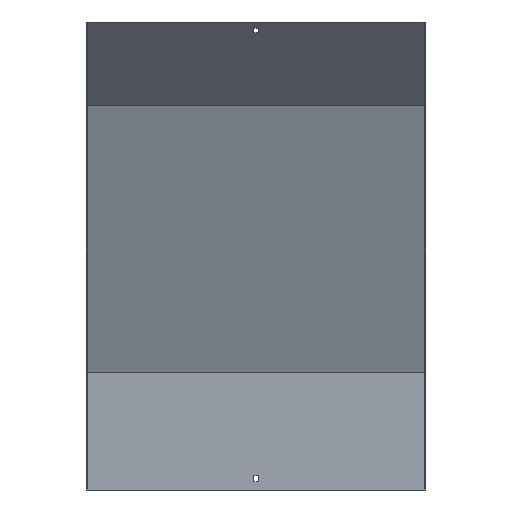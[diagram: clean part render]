
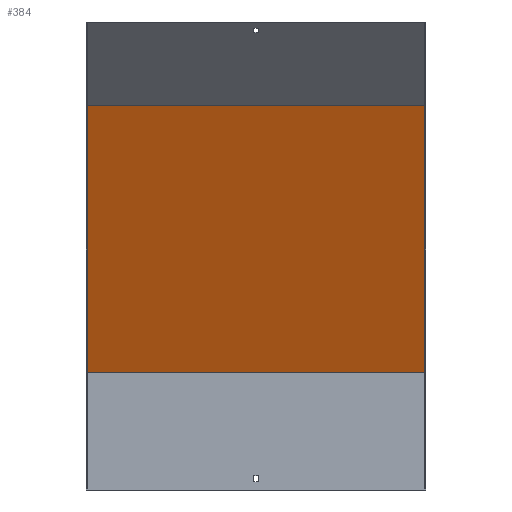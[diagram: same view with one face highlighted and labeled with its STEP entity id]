
A CAD part, front view. The second image highlights one B-rep face of the part: STEP entity #384.
In plain terms, the highlighted planar face has unit normal (0, -0.924, -0.383).
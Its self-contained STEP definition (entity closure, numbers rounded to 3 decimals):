
#15 = CARTESIAN_POINT ( 'NONE',  ( 251.5, 18.5, 173.68 ) ) ;
#22 = LINE ( 'NONE', #15, #682 ) ;
#23 = VERTEX_POINT ( 'NONE', #239 ) ;
#143 = CARTESIAN_POINT ( 'NONE',  ( -250., -145.809, 570.357 ) ) ;
#194 = ORIENTED_EDGE ( 'NONE', *, *, #319, .F. ) ;
#196 = DIRECTION ( 'NONE',  ( 0., 0.383, -0.924 ) ) ;
#204 = CARTESIAN_POINT ( 'NONE',  ( -250., 18.5, 173.68 ) ) ;
#210 = VERTEX_POINT ( 'NONE', #711 ) ;
#239 = CARTESIAN_POINT ( 'NONE',  ( 250., 18.5, 173.68 ) ) ;
#241 = EDGE_CURVE ( 'NONE', #23, #210, #644, .T. ) ;
#310 = DIRECTION ( 'NONE',  ( -1., 0., 0. ) ) ;
#311 = PLANE ( 'NONE',  #802 ) ;
#315 = FACE_OUTER_BOUND ( 'NONE', #666, .T. ) ;
#319 = EDGE_CURVE ( 'NONE', #408, #486, #845, .T. ) ;
#324 = CARTESIAN_POINT ( 'NONE',  ( 250., 77.196, 31.976 ) ) ;
#341 = ORIENTED_EDGE ( 'NONE', *, *, #429, .F. ) ;
#368 = ORIENTED_EDGE ( 'NONE', *, *, #713, .T. ) ;
#384 = ADVANCED_FACE ( 'NONE', ( #315 ), #311, .T. ) ;
#386 = CARTESIAN_POINT ( 'NONE',  ( 251.5, 17.092, 177.08 ) ) ;
#403 = DIRECTION ( 'NONE',  ( 0., -0.383, 0.924 ) ) ;
#408 = VERTEX_POINT ( 'NONE', #204 ) ;
#429 = EDGE_CURVE ( 'NONE', #23, #408, #22, .T. ) ;
#451 = CARTESIAN_POINT ( 'NONE',  ( -250., 77.196, 31.976 ) ) ;
#486 = VERTEX_POINT ( 'NONE', #143 ) ;
#512 = CARTESIAN_POINT ( 'NONE',  ( 251.5, -145.809, 570.357 ) ) ;
#541 = VECTOR ( 'NONE', #587, 1000. ) ;
#587 = DIRECTION ( 'NONE',  ( 0., -0.383, 0.924 ) ) ;
#622 = VECTOR ( 'NONE', #310, 1000. ) ;
#644 = LINE ( 'NONE', #324, #836 ) ;
#666 = EDGE_LOOP ( 'NONE', ( #194, #341, #724, #368 ) ) ;
#682 = VECTOR ( 'NONE', #747, 1000. ) ;
#711 = CARTESIAN_POINT ( 'NONE',  ( 250., -145.809, 570.357 ) ) ;
#713 = EDGE_CURVE ( 'NONE', #210, #486, #841, .T. ) ;
#724 = ORIENTED_EDGE ( 'NONE', *, *, #241, .T. ) ;
#747 = DIRECTION ( 'NONE',  ( -1., 0., 0. ) ) ;
#776 = DIRECTION ( 'NONE',  ( 0., -0.924, -0.383 ) ) ;
#802 = AXIS2_PLACEMENT_3D ( 'NONE', #386, #776, #196 ) ;
#836 = VECTOR ( 'NONE', #403, 1000. ) ;
#841 = LINE ( 'NONE', #512, #622 ) ;
#845 = LINE ( 'NONE', #451, #541 ) ;
